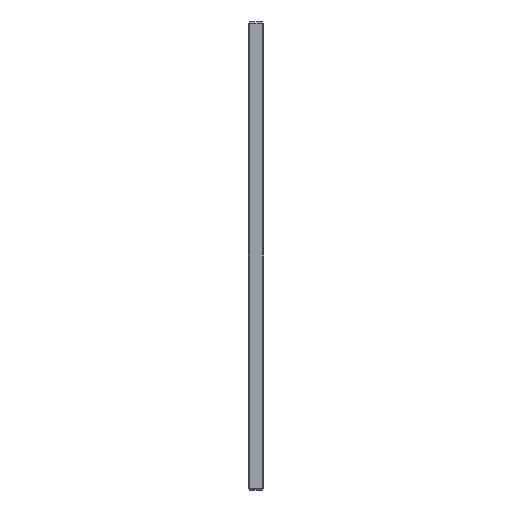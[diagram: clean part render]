
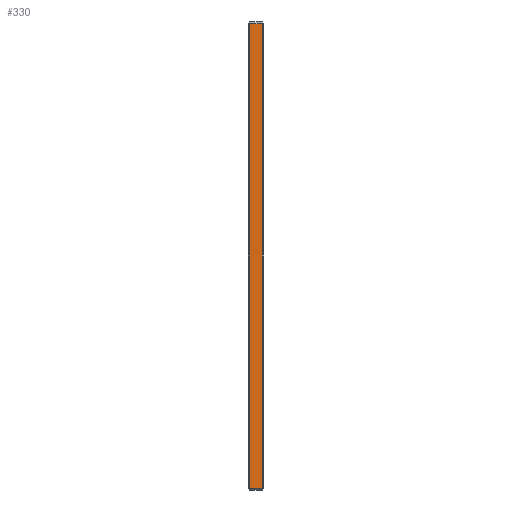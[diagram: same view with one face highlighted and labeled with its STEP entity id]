
A CAD part, left-side view. The second image highlights one B-rep face of the part: STEP entity #330.
In plain terms, the highlighted planar face has unit normal (-1, 0, 0).
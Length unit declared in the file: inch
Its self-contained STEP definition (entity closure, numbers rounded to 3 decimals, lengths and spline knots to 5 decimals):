
#11 = CARTESIAN_POINT ( 'NONE',  ( -11.8125, 0.45, -7.375 ) ) ;
#30 = EDGE_CURVE ( 'NONE', #1565, #1801, #167, .T. ) ;
#44 = ORIENTED_EDGE ( 'NONE', *, *, #1322, .T. ) ;
#92 = EDGE_CURVE ( 'NONE', #1801, #1853, #800, .T. ) ;
#147 = CARTESIAN_POINT ( 'NONE',  ( -11.8125, 0.5, -7.375 ) ) ;
#167 = LINE ( 'NONE', #1968, #1334 ) ;
#216 = DIRECTION ( 'NONE',  ( 0., -1., 0. ) ) ;
#328 = DIRECTION ( 'NONE',  ( 1., 0., 0. ) ) ;
#330 = ADVANCED_FACE ( 'Placement Plane', ( #983 ), #1871, .F. ) ;
#355 = VECTOR ( 'NONE', #216, 39.37008 ) ;
#454 = EDGE_CURVE ( 'NONE', #1060, #1565, #1907, .T. ) ;
#478 = LINE ( 'NONE', #1967, #355 ) ;
#611 = ORIENTED_EDGE ( 'NONE', *, *, #454, .T. ) ;
#800 = LINE ( 'NONE', #11, #1092 ) ;
#880 = DIRECTION ( 'NONE',  ( 0., 1., 0. ) ) ;
#898 = CARTESIAN_POINT ( 'NONE',  ( -11.8125, 0.05, -7.325 ) ) ;
#899 = EDGE_LOOP ( 'NONE', ( #1125, #44, #611, #927 ) ) ;
#927 = ORIENTED_EDGE ( 'NONE', *, *, #30, .T. ) ;
#939 = DIRECTION ( 'NONE',  ( 0., 0., -1. ) ) ;
#983 = FACE_OUTER_BOUND ( 'NONE', #899, .T. ) ;
#1046 = CARTESIAN_POINT ( 'NONE',  ( -11.8125, 0.05, -7.375 ) ) ;
#1060 = VERTEX_POINT ( 'NONE', #898 ) ;
#1092 = VECTOR ( 'NONE', #1304, 39.37008 ) ;
#1125 = ORIENTED_EDGE ( 'NONE', *, *, #92, .T. ) ;
#1198 = DIRECTION ( 'NONE',  ( 0., 0., 1. ) ) ;
#1209 = VECTOR ( 'NONE', #1198, 39.37008 ) ;
#1248 = CARTESIAN_POINT ( 'NONE',  ( -11.8125, 0.05, 7.325 ) ) ;
#1304 = DIRECTION ( 'NONE',  ( 0., 0., -1. ) ) ;
#1322 = EDGE_CURVE ( 'NONE', #1853, #1060, #478, .T. ) ;
#1334 = VECTOR ( 'NONE', #880, 39.37008 ) ;
#1511 = AXIS2_PLACEMENT_3D ( 'NONE', #147, #328, #939 ) ;
#1565 = VERTEX_POINT ( 'NONE', #1248 ) ;
#1740 = CARTESIAN_POINT ( 'NONE',  ( -11.8125, 0.45, 7.325 ) ) ;
#1801 = VERTEX_POINT ( 'NONE', #1740 ) ;
#1853 = VERTEX_POINT ( 'NONE', #1896 ) ;
#1871 = PLANE ( 'NONE',  #1511 ) ;
#1896 = CARTESIAN_POINT ( 'NONE',  ( -11.8125, 0.45, -7.325 ) ) ;
#1907 = LINE ( 'NONE', #1046, #1209 ) ;
#1967 = CARTESIAN_POINT ( 'NONE',  ( -11.8125, 0.5, -7.325 ) ) ;
#1968 = CARTESIAN_POINT ( 'NONE',  ( -11.8125, 0.5, 7.325 ) ) ;
